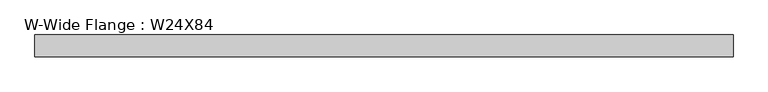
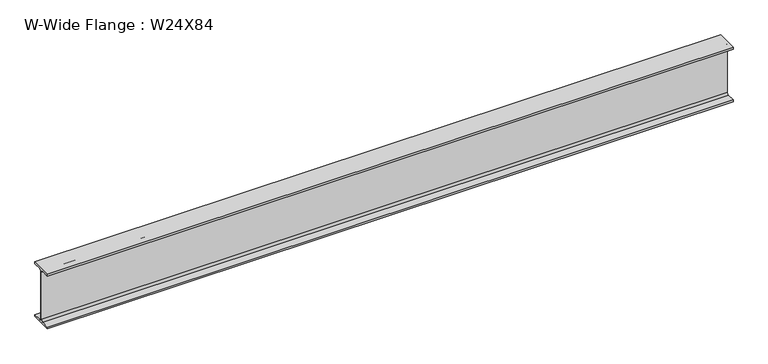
"""IFC4 building model written with IfcOpenShell, lengths in millimetres: beam geometry, W-Wide Flange : W24X84."""

from ifc_helpers import new_model, si_unit, point, frame, frame_2d, origin, place, context, project, spatial, polyline, circle_curve, trimmed, segment, composite_curve, outline, extrude, source, transform, mapped, element, save


def w_wide_flange_w24x84_0eef56af(model_context):
    return source(origin(), model_context, "Body", "SweptSolid", [
        extrude(outline(composite_curve([segment(polyline([(114.554, -286.512), (114.554, -306.07), (-114.554, -306.07), (-114.554, -286.512), (-29.2735, -286.512)]), True, "CONTINUOUS"), segment(trimmed(circle_curve(frame_2d((-29.2735, -263.2075)), 23.3045), [point((-29.2735, -286.512))], [point((-5.969, -263.2075))], True, "CARTESIAN"), True, "CONTINUOUS"), segment(polyline([(-5.969, -263.2075), (-5.969, 263.2075)]), True, "CONTINUOUS"), segment(trimmed(circle_curve(frame_2d((-29.2735, 263.2075)), 23.3045), [point((-5.969, 263.2075))], [point((-29.2735, 286.512))], True, "CARTESIAN"), True, "CONTINUOUS"), segment(polyline([(-29.2735, 286.512), (-114.554, 286.512), (-114.554, 306.07), (114.554, 306.07), (114.554, 286.512), (29.2735, 286.512)]), True, "CONTINUOUS"), segment(trimmed(circle_curve(frame_2d((29.2735, 263.2075)), 23.3045), [point((29.2735, 286.512))], [point((5.969, 263.2075))], True, "CARTESIAN"), True, "CONTINUOUS"), segment(polyline([(5.969, 263.2075), (5.969, -263.2075)]), True, "CONTINUOUS"), segment(trimmed(circle_curve(frame_2d((29.2735, -263.2075)), 23.3045), [point((5.969, -263.2075))], [point((29.2735, -286.512))], True, "CARTESIAN"), True, "CONTINUOUS"), segment(polyline([(29.2735, -286.512), (114.554, -286.512)]), True, "CONTINUOUS")], self_intersect=False)), frame((-3645.6441406, 0.0, 0.0), z_axis=(1.0, 0.0, 0.0), x_axis=(0.0, 1.0, 0.0)), (0.0, 0.0, 1.0), 7291.2882813),
    ])


if __name__ == "__main__":
    model = new_model("IFC4")
    model_context = context("Model", 3, world=origin())
    ifc_project = project(units=[si_unit("LENGTHUNIT", "METRE", prefix="MILLI")], contexts=[model_context])
    site = spatial("IfcSite", under=ifc_project)
    building = spatial("IfcBuilding", under=site)
    placement = place(None, origin())
    w_wide_flange_w24x84_shape = w_wide_flange_w24x84_0eef56af(model_context)
    element("IfcBeam", 1, ObjectType="W-Wide Flange : W24X84", at=placement, inside=building, context=model_context, shape_type="MappedRepresentation", body=[
        mapped(w_wide_flange_w24x84_shape, transform((0.0, 0.0, 0.0), x_axis=(1.0, 0.0, 0.0), y_axis=(0.0, 1.0, 0.0), z_axis=(0.0, 0.0, 1.0))),
    ])
    save(model, "model.ifc")
